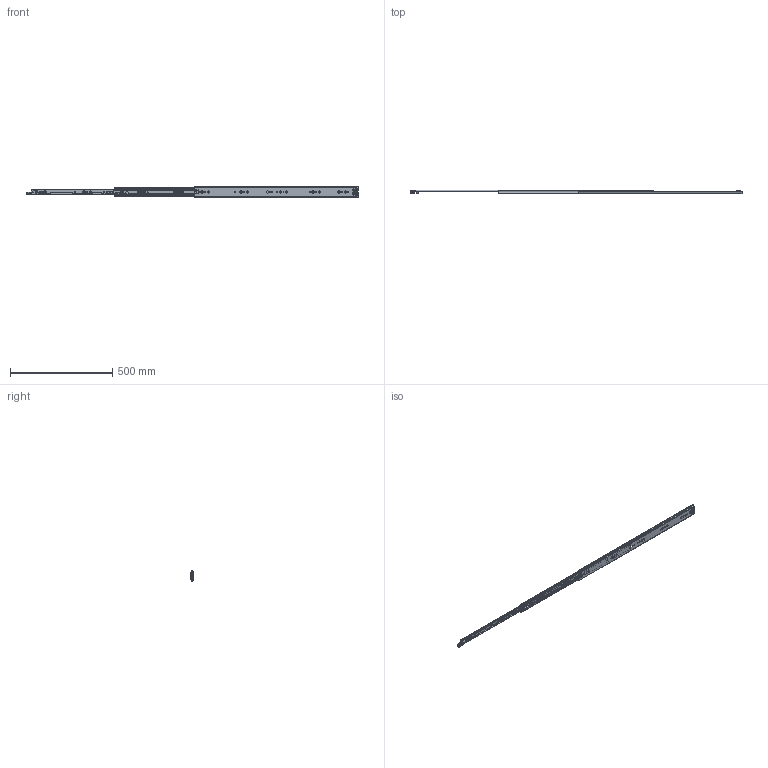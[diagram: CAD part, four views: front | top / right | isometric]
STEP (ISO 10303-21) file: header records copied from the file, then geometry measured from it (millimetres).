
FILE_DESCRIPTION((''),'2;1');
FILE_NAME('1053-3S-32ZUZHUANGTU_ASM','2022-08-25T',('jishu015'),(''),'PRO/ENGINEER BY PARAMETRIC TECHNOLOGY CORPORATION, 2010280','PRO/ENGINEER BY PARAMETRIC TECHNOLOGY CORPORATION, 2010280','');
FILE_SCHEMA(('CONFIG_CONTROL_DESIGN'));
Products named in the file (20): 1053-02-18WAIKE__________; 1053WEIJIAO__________; 1053-3S-24WAIKE___________ASM; 1053ZHUTIAO-175__________; 53-5-6GANZHU__________; 1053ZHUTIAO-175MM___________ASM; 1053-02-18ZHONGGUI__________; ZHONGGUIPEIJIAN________; ZHONGGUISUOKOU________; 1053-02-18ZHONGGUI___________ASM; 1053XIAOZHUJIA-14GE__________; 1053XIAOZHUJIA-14GE___________ASM; 1053-02-18NEIGUI__________; DAOPIAN______; PIAN______; 1053-3SBANJI123_____; JIAO-11_____; 50XINSUOKOU11____; 1053-02-18NEIGUI___________ASM; 1053-3S-32ZUZHUANGTU_ASM
Assembly tree (89 placements, depth 3):
  1053-3S-32ZUZHUANGTU_ASM
    1053-3S-24WAIKE___________ASM
      1053-02-18WAIKE__________
      1053WEIJIAO__________
    1053ZHUTIAO-175MM___________ASM  x2
      1053ZHUTIAO-175__________
      53-5-6GANZHU__________
    1053-02-18ZHONGGUI___________ASM
      1053-02-18ZHONGGUI__________
      ZHONGGUIPEIJIAN________
      ZHONGGUISUOKOU________
    1053XIAOZHUJIA-14GE___________ASM
      1053XIAOZHUJIA-14GE__________
      53-5-6GANZHU__________  x56
    1053-02-18NEIGUI___________ASM
      1053-02-18NEIGUI__________
      DAOPIAN______
      PIAN______
      1053-3SBANJI123_____
      JIAO-11_____
      50XINSUOKOU11____
Bounding box: 1626.92 x 18.7 x 53 mm (x, y, z)
Volume: 304292.3 mm3; surface area: 352723.1 mm2
Topology: 99 solids, 99 shells, 2559 faces, 7412 edges, 4634 vertices
Faces by surface type: cylinder 1112, plane 1034, sphere 176, bspline 112, cone 86, extrusion 23, torus 16
Entity records: 83063 total; most frequent: CARTESIAN_POINT 20766, ORIENTED_EDGE 13244, DIRECTION 12780, EDGE_CURVE 6622, AXIS2_PLACEMENT_3D 4421, VERTEX_POINT 4282, VECTOR 3938, LINE 3915
